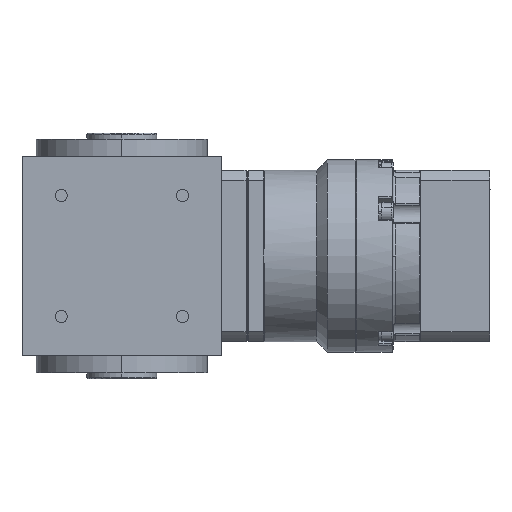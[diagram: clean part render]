
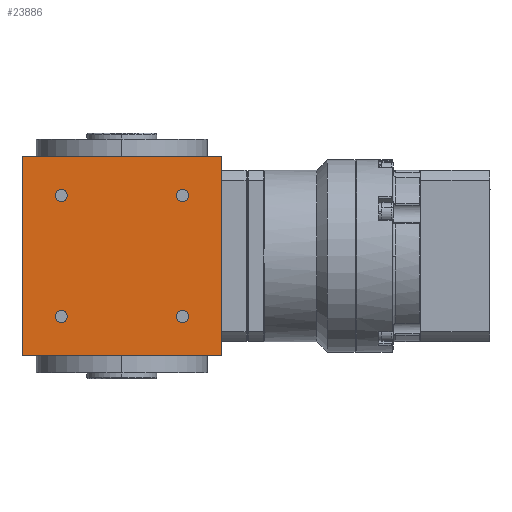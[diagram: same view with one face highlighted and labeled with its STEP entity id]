
A CAD part, left-side view. The second image highlights one B-rep face of the part: STEP entity #23886.
In plain terms, the highlighted planar face has unit normal (-1, 0, 0).
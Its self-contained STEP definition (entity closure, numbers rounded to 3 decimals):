
#37 = CARTESIAN_POINT ( 'NONE',  ( -35., 21.213, -21.213 ) ) ;
#1247 = EDGE_CURVE ( 'NONE', #30611, #7470, #19076, .T. ) ;
#1303 = DIRECTION ( 'NONE',  ( 0., -1., 0. ) ) ;
#1434 = EDGE_CURVE ( 'NONE', #29089, #8443, #18271, .T. ) ;
#1754 = CARTESIAN_POINT ( 'NONE',  ( -35., -21.213, 21.213 ) ) ;
#1986 = CIRCLE ( 'NONE', #20351, 2.1 ) ;
#2952 = VECTOR ( 'NONE', #16694, 1000. ) ;
#3226 = VERTEX_POINT ( 'NONE', #26306 ) ;
#4476 = AXIS2_PLACEMENT_3D ( 'NONE', #15239, #24969, #16976 ) ;
#4848 = DIRECTION ( 'NONE',  ( 0., -1., 0. ) ) ;
#4922 = CARTESIAN_POINT ( 'NONE',  ( -35., -21.213, -21.213 ) ) ;
#5027 = ORIENTED_EDGE ( 'NONE', *, *, #19863, .T. ) ;
#5953 = CARTESIAN_POINT ( 'NONE',  ( -35., -21.213, 21.213 ) ) ;
#6000 = FACE_BOUND ( 'NONE', #23749, .T. ) ;
#6204 = DIRECTION ( 'NONE',  ( 0., -1., 0. ) ) ;
#6400 = EDGE_CURVE ( 'NONE', #20163, #17541, #27185, .T. ) ;
#6606 = ORIENTED_EDGE ( 'NONE', *, *, #9064, .F. ) ;
#7306 = CARTESIAN_POINT ( 'NONE',  ( -35., -35., 35. ) ) ;
#7470 = VERTEX_POINT ( 'NONE', #15315 ) ;
#7631 = VECTOR ( 'NONE', #20753, 1000. ) ;
#7992 = EDGE_LOOP ( 'NONE', ( #17553, #25776 ) ) ;
#8031 = CARTESIAN_POINT ( 'NONE',  ( -35., 19.113, 21.213 ) ) ;
#8199 = CARTESIAN_POINT ( 'NONE',  ( -35., 35., 35. ) ) ;
#8443 = VERTEX_POINT ( 'NONE', #8657 ) ;
#8558 = CARTESIAN_POINT ( 'NONE',  ( -35., 21.213, -21.213 ) ) ;
#8657 = CARTESIAN_POINT ( 'NONE',  ( -35., 23.313, 21.213 ) ) ;
#9064 = EDGE_CURVE ( 'NONE', #30611, #24307, #23629, .T. ) ;
#9475 = CARTESIAN_POINT ( 'NONE',  ( -35., 0., -35. ) ) ;
#9816 = CARTESIAN_POINT ( 'NONE',  ( -35., 0., 35. ) ) ;
#9823 = DIRECTION ( 'NONE',  ( 1., 0., 0. ) ) ;
#10939 = FACE_BOUND ( 'NONE', #30644, .T. ) ;
#10976 = CARTESIAN_POINT ( 'NONE',  ( -35., -21.213, -21.213 ) ) ;
#11742 = DIRECTION ( 'NONE',  ( 0., -1., 0. ) ) ;
#12318 = ORIENTED_EDGE ( 'NONE', *, *, #6400, .T. ) ;
#12818 = AXIS2_PLACEMENT_3D ( 'NONE', #37, #19374, #4848 ) ;
#13028 = PLANE ( 'NONE',  #30226 ) ;
#13180 = DIRECTION ( 'NONE',  ( -1., 0., 0. ) ) ;
#13603 = ORIENTED_EDGE ( 'NONE', *, *, #13719, .T. ) ;
#13719 = EDGE_CURVE ( 'NONE', #17541, #20163, #31338, .T. ) ;
#13828 = DIRECTION ( 'NONE',  ( 0., -1., 0. ) ) ;
#14670 = DIRECTION ( 'NONE',  ( 1., 0., 0. ) ) ;
#15239 = CARTESIAN_POINT ( 'NONE',  ( -35., 21.213, 21.213 ) ) ;
#15315 = CARTESIAN_POINT ( 'NONE',  ( -35., -35., -35. ) ) ;
#15763 = FACE_OUTER_BOUND ( 'NONE', #22598, .T. ) ;
#16209 = VECTOR ( 'NONE', #11742, 1000. ) ;
#16313 = DIRECTION ( 'NONE',  ( 1., 0., 0. ) ) ;
#16568 = EDGE_CURVE ( 'NONE', #24307, #29737, #24517, .T. ) ;
#16623 = CARTESIAN_POINT ( 'NONE',  ( -35., 35., -35. ) ) ;
#16694 = DIRECTION ( 'NONE',  ( 0., -1., 0. ) ) ;
#16755 = ORIENTED_EDGE ( 'NONE', *, *, #21976, .F. ) ;
#16759 = AXIS2_PLACEMENT_3D ( 'NONE', #8558, #21320, #13828 ) ;
#16976 = DIRECTION ( 'NONE',  ( 0., -1., 0. ) ) ;
#17264 = CIRCLE ( 'NONE', #16759, 2.1 ) ;
#17412 = AXIS2_PLACEMENT_3D ( 'NONE', #1754, #16313, #26043 ) ;
#17449 = EDGE_CURVE ( 'NONE', #31366, #30999, #17264, .T. ) ;
#17467 = EDGE_LOOP ( 'NONE', ( #12318, #13603 ) ) ;
#17541 = VERTEX_POINT ( 'NONE', #22127 ) ;
#17553 = ORIENTED_EDGE ( 'NONE', *, *, #21513, .T. ) ;
#17604 = ORIENTED_EDGE ( 'NONE', *, *, #20216, .T. ) ;
#17948 = AXIS2_PLACEMENT_3D ( 'NONE', #19723, #9823, #22279 ) ;
#18271 = CIRCLE ( 'NONE', #4476, 2.1 ) ;
#18505 = DIRECTION ( 'NONE',  ( 1., 0., 0. ) ) ;
#19076 = LINE ( 'NONE', #9475, #2952 ) ;
#19242 = CARTESIAN_POINT ( 'NONE',  ( -35., 19.113, -21.213 ) ) ;
#19374 = DIRECTION ( 'NONE',  ( 1., 0., 0. ) ) ;
#19723 = CARTESIAN_POINT ( 'NONE',  ( -35., 21.213, 21.213 ) ) ;
#19863 = EDGE_CURVE ( 'NONE', #8443, #29089, #29162, .T. ) ;
#20078 = CARTESIAN_POINT ( 'NONE',  ( -35., 23.313, -21.213 ) ) ;
#20163 = VERTEX_POINT ( 'NONE', #21137 ) ;
#20216 = EDGE_CURVE ( 'NONE', #30999, #31366, #27624, .T. ) ;
#20288 = LINE ( 'NONE', #30368, #7631 ) ;
#20351 = AXIS2_PLACEMENT_3D ( 'NONE', #5953, #27694, #1303 ) ;
#20753 = DIRECTION ( 'NONE',  ( 0., 0., -1. ) ) ;
#21013 = VERTEX_POINT ( 'NONE', #22180 ) ;
#21137 = CARTESIAN_POINT ( 'NONE',  ( -35., -23.313, -21.213 ) ) ;
#21320 = DIRECTION ( 'NONE',  ( 1., 0., 0. ) ) ;
#21513 = EDGE_CURVE ( 'NONE', #3226, #21013, #1986, .T. ) ;
#21691 = ORIENTED_EDGE ( 'NONE', *, *, #17449, .T. ) ;
#21976 = EDGE_CURVE ( 'NONE', #29737, #7470, #20288, .T. ) ;
#22127 = CARTESIAN_POINT ( 'NONE',  ( -35., -19.113, -21.213 ) ) ;
#22180 = CARTESIAN_POINT ( 'NONE',  ( -35., -19.113, 21.213 ) ) ;
#22279 = DIRECTION ( 'NONE',  ( 0., -1., 0. ) ) ;
#22415 = ORIENTED_EDGE ( 'NONE', *, *, #1247, .T. ) ;
#22598 = EDGE_LOOP ( 'NONE', ( #16755, #25438, #6606, #22415 ) ) ;
#22762 = FACE_BOUND ( 'NONE', #7992, .T. ) ;
#23245 = EDGE_CURVE ( 'NONE', #21013, #3226, #28119, .T. ) ;
#23629 = LINE ( 'NONE', #16623, #27776 ) ;
#23749 = EDGE_LOOP ( 'NONE', ( #31105, #5027 ) ) ;
#23886 = ADVANCED_FACE ( 'NONE', ( #6000, #22762, #25484, #10939, #15763 ), #13028, .T. ) ;
#24307 = VERTEX_POINT ( 'NONE', #8199 ) ;
#24411 = DIRECTION ( 'NONE',  ( 0., -1., 0. ) ) ;
#24517 = LINE ( 'NONE', #9816, #16209 ) ;
#24969 = DIRECTION ( 'NONE',  ( 1., 0., 0. ) ) ;
#25256 = CARTESIAN_POINT ( 'NONE',  ( -35., 35., -35. ) ) ;
#25438 = ORIENTED_EDGE ( 'NONE', *, *, #16568, .F. ) ;
#25484 = FACE_BOUND ( 'NONE', #17467, .T. ) ;
#25652 = AXIS2_PLACEMENT_3D ( 'NONE', #4922, #14670, #24411 ) ;
#25776 = ORIENTED_EDGE ( 'NONE', *, *, #23245, .T. ) ;
#26041 = DIRECTION ( 'NONE',  ( 0., 0., 1. ) ) ;
#26043 = DIRECTION ( 'NONE',  ( 0., -1., 0. ) ) ;
#26306 = CARTESIAN_POINT ( 'NONE',  ( -35., -23.313, 21.213 ) ) ;
#27185 = CIRCLE ( 'NONE', #25652, 2.1 ) ;
#27413 = DIRECTION ( 'NONE',  ( 0., 0., 1. ) ) ;
#27624 = CIRCLE ( 'NONE', #12818, 2.1 ) ;
#27694 = DIRECTION ( 'NONE',  ( 1., 0., 0. ) ) ;
#27776 = VECTOR ( 'NONE', #26041, 1000. ) ;
#28119 = CIRCLE ( 'NONE', #17412, 2.1 ) ;
#29089 = VERTEX_POINT ( 'NONE', #8031 ) ;
#29162 = CIRCLE ( 'NONE', #17948, 2.1 ) ;
#29737 = VERTEX_POINT ( 'NONE', #7306 ) ;
#30226 = AXIS2_PLACEMENT_3D ( 'NONE', #30608, #13180, #27413 ) ;
#30317 = AXIS2_PLACEMENT_3D ( 'NONE', #10976, #18505, #6204 ) ;
#30368 = CARTESIAN_POINT ( 'NONE',  ( -35., -35., -35. ) ) ;
#30608 = CARTESIAN_POINT ( 'NONE',  ( -35., 35., -35. ) ) ;
#30611 = VERTEX_POINT ( 'NONE', #25256 ) ;
#30644 = EDGE_LOOP ( 'NONE', ( #21691, #17604 ) ) ;
#30999 = VERTEX_POINT ( 'NONE', #20078 ) ;
#31105 = ORIENTED_EDGE ( 'NONE', *, *, #1434, .T. ) ;
#31338 = CIRCLE ( 'NONE', #30317, 2.1 ) ;
#31366 = VERTEX_POINT ( 'NONE', #19242 ) ;
